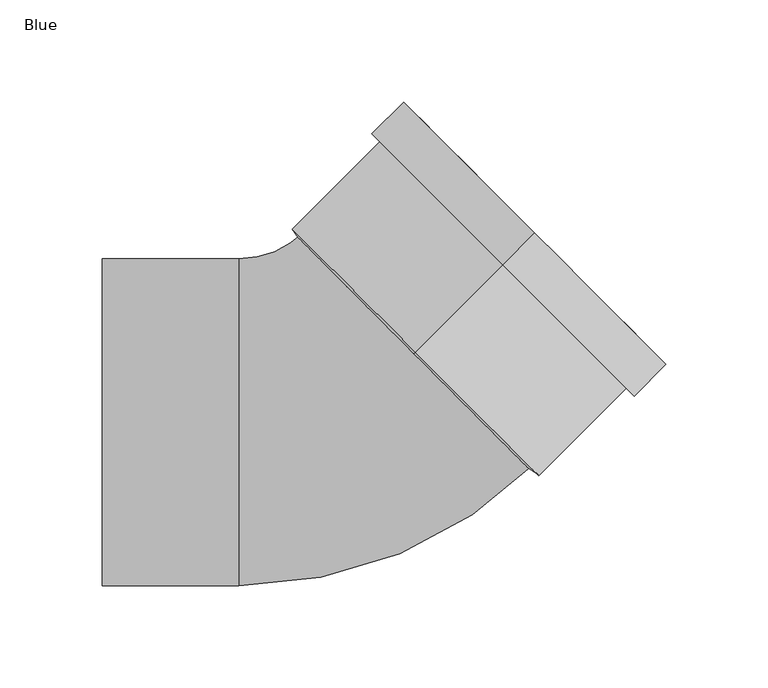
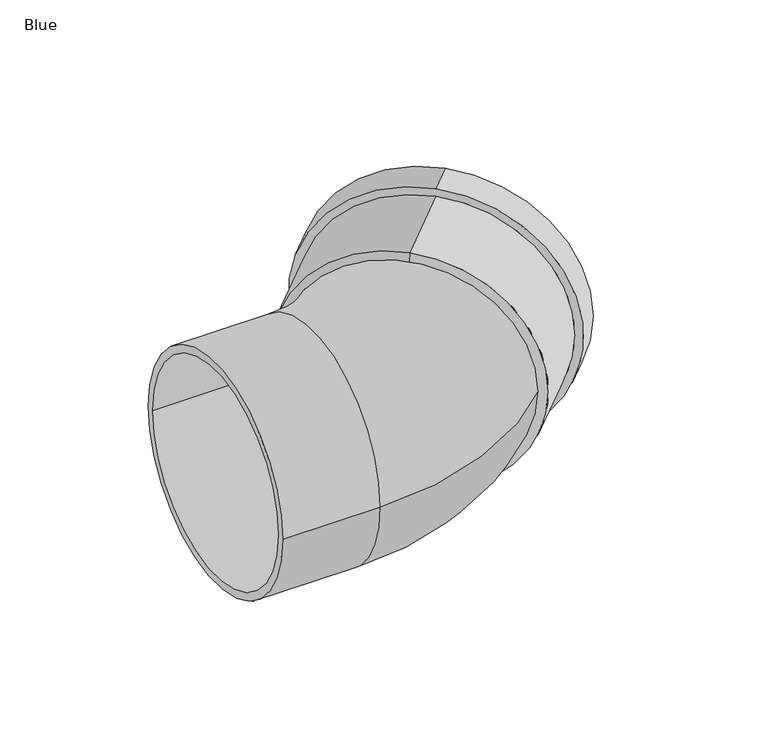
"""IFC4 building model written with IfcOpenShell, lengths in millimetres: pipe fitting geometry, AWADUKT PP SN10 Bend : Blue."""

from ifc_helpers import new_model, si_unit, point, frame, origin, place, context, project, spatial, polyline, circle_curve, ellipse_curve, trimmed, source, transform, mapped, element, save
from ifc_brep_helpers import plane_surface, cylinder_surface, revolved_surface, advanced_brep


def blue_68ca3d6e(model_context):
    return source(origin(), model_context, "Body", "AdvancedBrep", [
        advanced_brep(
        [(77.0746391, 77.0746391, 85.5), (77.0746391, 77.0746391, -85.5), (34.2626826, 34.2626826, -85.5), (34.2626826, 34.2626826, 85.5), (92.6309883, 92.6309883, 91.0), (92.6309883, 92.6309883, -91.0), (77.0746391, 77.0746391, -91.0), (77.0746391, 77.0746391, 91.0), (88.741901, 88.741901, 80.0), (88.741901, 88.741901, -80.0), (92.6309883, 92.6309883, -80.0), (92.6309883, 92.6309883, 80.0), (80.9637264, 80.9637264, 85.5), (80.9637264, 80.9637264, -85.5), (88.741901, 88.741901, -85.5), (88.741901, 88.741901, 85.5), (37.5260143, 37.5260143, 80.0), (37.5260143, 37.5260143, -80.0), (80.9637264, 80.9637264, -80.0), (80.9637264, 80.9637264, 80.0), (36.8402633, 36.8402633, 74.5), (36.8402633, 36.8402633, -74.5), (32.8911806, 32.8911806, 74.5), (32.8911806, 32.8911806, -74.5)],
        [
            (0, 1, circle_curve(frame((77.0746391, 77.0746391, 0.0), z_axis=(-0.7071067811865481, -0.7071067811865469, 0.0), x_axis=(0.0, 0.0, -1.0)), 85.5)),
            (1, 2),
            (2, 3, circle_curve(frame((34.2626826, 34.2626826, 0.0), z_axis=(0.7071067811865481, 0.7071067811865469, 0.0), x_axis=(0.0, 0.0, -1.0)), 85.5)),
            (3, 0),
            (4, 5, circle_curve(frame((92.6309883, 92.6309883, 0.0), z_axis=(-0.7071067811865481, -0.7071067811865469, 0.0), x_axis=(0.0, 0.0, -1.0)), 91.0)),
            (5, 6),
            (6, 7, circle_curve(frame((77.0746391, 77.0746391, 0.0), z_axis=(0.7071067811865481, 0.7071067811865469, 0.0), x_axis=(0.0, 0.0, -1.0)), 91.0)),
            (7, 4),
            (8, 9, circle_curve(frame((88.741901, 88.741901, 0.0), z_axis=(-0.7071067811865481, -0.7071067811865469, 0.0), x_axis=(0.0, 0.0, -1.0)), 80.0)),
            (9, 10),
            (10, 11, circle_curve(frame((92.6309883, 92.6309883, 0.0), z_axis=(0.7071067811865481, 0.7071067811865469, 0.0), x_axis=(0.0, 0.0, -1.0)), 80.0)),
            (11, 8),
            (12, 13, circle_curve(frame((80.9637264, 80.9637264, 0.0), z_axis=(-0.7071067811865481, -0.7071067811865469, 0.0), x_axis=(0.0, 0.0, -1.0)), 85.5)),
            (13, 14),
            (14, 15, circle_curve(frame((88.741901, 88.741901, 0.0), z_axis=(0.7071067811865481, 0.7071067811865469, 0.0), x_axis=(0.0, 0.0, -1.0)), 85.5)),
            (15, 12),
            (16, 17, circle_curve(frame((37.5260143, 37.5260143, 0.0), z_axis=(-0.7071067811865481, -0.7071067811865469, 0.0), x_axis=(0.0, 0.0, -1.0)), 80.0)),
            (17, 18),
            (18, 19, circle_curve(frame((80.9637264, 80.9637264, 0.0), z_axis=(0.7071067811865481, 0.7071067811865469, 0.0), x_axis=(0.0, 0.0, -1.0)), 80.0)),
            (19, 16),
            (20, 21, circle_curve(frame((36.8402633, 36.8402633, 0.0), z_axis=(-0.7071067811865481, -0.7071067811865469, 0.0), x_axis=(0.0, 0.0, -1.0)), 74.5)),
            (21, 17),
            (16, 20),
            (22, 23, circle_curve(frame((32.8911806, 32.8911806, 0.0), z_axis=(-0.7071067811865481, -0.7071067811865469, 0.0), x_axis=(0.0, 0.0, -1.0)), 74.5)),
            (23, 21),
            (20, 22),
            (2, 23),
            (22, 3),
            (1, 0, circle_curve(frame((77.0746391, 77.0746391, 0.0), z_axis=(-0.7071067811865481, -0.7071067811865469, 0.0), x_axis=(0.0, 0.0, 1.0)), 85.5)),
            (3, 2, circle_curve(frame((34.2626826, 34.2626826, 0.0), z_axis=(0.7071067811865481, 0.7071067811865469, 0.0), x_axis=(0.0, 0.0, 1.0)), 85.5)),
            (6, 7, circle_curve(frame((77.0746391, 77.0746391, 0.0), z_axis=(-0.7071067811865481, -0.7071067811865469, 0.0), x_axis=(0.0, 0.0, 1.0)), 91.0)),
            (5, 4, circle_curve(frame((92.6309883, 92.6309883, 0.0), z_axis=(-0.7071067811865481, -0.7071067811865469, 0.0), x_axis=(0.0, 0.0, 1.0)), 91.0)),
            (10, 11, circle_curve(frame((92.6309883, 92.6309883, 0.0), z_axis=(-0.7071067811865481, -0.7071067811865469, 0.0), x_axis=(0.0, 0.0, 1.0)), 80.0)),
            (9, 8, circle_curve(frame((88.741901, 88.741901, 0.0), z_axis=(-0.7071067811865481, -0.7071067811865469, 0.0), x_axis=(0.0, 0.0, 1.0)), 80.0)),
            (14, 15, circle_curve(frame((88.741901, 88.741901, 0.0), z_axis=(-0.7071067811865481, -0.7071067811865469, 0.0), x_axis=(0.0, 0.0, 1.0)), 85.5)),
            (13, 12, circle_curve(frame((80.9637264, 80.9637264, 0.0), z_axis=(-0.7071067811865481, -0.7071067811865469, 0.0), x_axis=(0.0, 0.0, 1.0)), 85.5)),
            (18, 19, circle_curve(frame((80.9637264, 80.9637264, 0.0), z_axis=(-0.7071067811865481, -0.7071067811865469, 0.0), x_axis=(0.0, 0.0, 1.0)), 80.0)),
            (17, 16, circle_curve(frame((37.5260143, 37.5260143, 0.0), z_axis=(-0.7071067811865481, -0.7071067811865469, 0.0), x_axis=(0.0, 0.0, 1.0)), 80.0)),
            (21, 20, circle_curve(frame((36.8402633, 36.8402633, 0.0), z_axis=(-0.7071067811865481, -0.7071067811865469, 0.0), x_axis=(0.0, 0.0, 1.0)), 74.5)),
            (23, 22, circle_curve(frame((32.8911806, 32.8911806, 0.0), z_axis=(-0.7071067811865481, -0.7071067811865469, 0.0), x_axis=(0.0, 0.0, 1.0)), 74.5)),
        ],
        [
            cylinder_surface(frame((36.8402633, 36.8402633, 0.0), z_axis=(0.7071067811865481, 0.7071067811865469, 0.0), x_axis=(0.0, 0.0, -1.0)), 85.5),
            cylinder_surface(frame((36.8402633, 36.8402633, 0.0), z_axis=(0.7071067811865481, 0.7071067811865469, 0.0), x_axis=(0.0, 0.0, -1.0)), 91.0),
            revolved_surface(polyline([(92.63098830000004, 92.63098829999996, -80.0), (88.74190100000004, 88.74190099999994, -80.0)]), (36.8402633, 36.8402633, 0.0), (0.7071067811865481, 0.7071067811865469, 0.0)),
            revolved_surface(polyline([(88.74190100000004, 88.74190099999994, -85.5), (80.96372640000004, 80.96372639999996, -85.5)]), (36.8402633, 36.8402633, 0.0), (0.7071067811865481, 0.7071067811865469, 0.0)),
            revolved_surface(polyline([(80.96372640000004, 80.96372639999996, -80.0), (37.5260143, 37.5260143, -80.0)]), (36.8402633, 36.8402633, 0.0), (0.7071067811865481, 0.7071067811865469, 0.0)),
            revolved_surface(polyline([(37.5260143, 37.5260143, -80.0), (36.8402633, 36.8402633, -74.5)]), (36.8402633, 36.8402633, 0.0), (0.7071067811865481, 0.7071067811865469, 0.0)),
            revolved_surface(polyline([(36.8402633, 36.8402633, -74.5), (32.8911806, 32.8911806, -74.5)]), (36.8402633, 36.8402633, 0.0), (0.7071067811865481, 0.7071067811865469, 0.0)),
            revolved_surface(polyline([(32.8911806, 32.8911806, -74.5), (34.2626826, 34.2626826, -85.5)]), (36.8402633, 36.8402633, 0.0), (0.7071067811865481, 0.7071067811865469, 0.0)),
            cylinder_surface(frame((36.8402633, 36.8402633, 0.0), z_axis=(0.7071067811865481, 0.7071067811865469, 0.0), x_axis=(0.0, 0.0, 1.0)), 85.5),
            plane_surface(frame((77.0746391, 77.0746391, 0.0), z_axis=(-0.7071067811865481, -0.7071067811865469, 0.0), x_axis=(0.0, 0.0, 1.0))),
            cylinder_surface(frame((36.8402633, 36.8402633, 0.0), z_axis=(0.7071067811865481, 0.7071067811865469, 0.0), x_axis=(0.0, 0.0, 1.0)), 91.0),
            plane_surface(frame((92.6309883, 92.6309883, 0.0), z_axis=(0.7071067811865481, 0.7071067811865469, 0.0), x_axis=(0.0, 0.0, 1.0))),
            revolved_surface(polyline([(92.63098830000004, 92.63098829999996, 80.0), (88.74190100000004, 88.74190099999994, 80.0)]), (36.8402633, 36.8402633, 0.0), (0.7071067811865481, 0.7071067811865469, 0.0)),
            plane_surface(frame((88.741901, 88.741901, 0.0), z_axis=(-0.7071067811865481, -0.7071067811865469, 0.0), x_axis=(0.0, 0.0, 1.0))),
            revolved_surface(polyline([(88.74190100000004, 88.74190099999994, 85.5), (80.96372640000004, 80.96372639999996, 85.5)]), (36.8402633, 36.8402633, 0.0), (0.7071067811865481, 0.7071067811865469, 0.0)),
            plane_surface(frame((80.9637264, 80.9637264, 0.0), z_axis=(0.7071067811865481, 0.7071067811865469, 0.0), x_axis=(0.0, 0.0, 1.0))),
            revolved_surface(polyline([(80.96372640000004, 80.96372639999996, 80.0), (37.5260143, 37.5260143, 80.0)]), (36.8402633, 36.8402633, 0.0), (0.7071067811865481, 0.7071067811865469, 0.0)),
            revolved_surface(polyline([(37.5260143, 37.5260143, 80.0), (36.8402633, 36.8402633, 74.5)]), (36.8402633, 36.8402633, 0.0), (0.7071067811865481, 0.7071067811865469, 0.0)),
            revolved_surface(polyline([(36.8402633, 36.8402633, 74.5), (32.8911806, 32.8911806, 74.5)]), (36.8402633, 36.8402633, 0.0), (0.7071067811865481, 0.7071067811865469, 0.0)),
            revolved_surface(polyline([(32.8911806, 32.8911806, 74.5), (34.2626826, 34.2626826, 85.5)]), (36.8402633, 36.8402633, 0.0), (0.7071067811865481, 0.7071067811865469, 0.0)),
        ],
        [
            (0, [[1, 2, 3, 4]]),
            (1, [[5, 6, 7, 8]]),
            (2, [[9, 10, 11, 12]]),
            (3, [[13, 14, 15, 16]]),
            (4, [[17, 18, 19, 20]]),
            (5, [[21, 22, -17, 23]]),
            (6, [[24, 25, -21, 26]]),
            (7, [[-3, 27, -24, 28]]),
            (8, [[29, -4, 30, -2]]),
            (9, [[31, -7], [-29, -1]]),
            (10, [[32, -8, -31, -6]]),
            (11, [[-32, -5], [33, -11]]),
            (12, [[34, -12, -33, -10]]),
            (13, [[35, -15], [-34, -9]]),
            (14, [[36, -16, -35, -14]]),
            (15, [[-36, -13], [37, -19]]),
            (16, [[38, -20, -37, -18]]),
            (17, [[39, -23, -38, -22]]),
            (18, [[40, -26, -39, -25]]),
            (19, [[-30, -28, -40, -27]]),
        ],
    ),
        advanced_brep(
        [(-119.0, -80.0, 0.0), (-119.0, 80.0, 0.0), (-119.0, -74.5, 0.0), (-119.0, 74.5, 0.0), (93.4088058, -19.7282792, 0.0), (-19.7282792, 93.4088058, 0.0), (89.5197185, -15.8391919, 0.0), (-15.8391919, 89.5197185, 0.0), (-52.1, -74.5, 0.0), (-52.1, 74.5, 0.0), (-52.1, -80.0, 0.0), (-52.1, 80.0, 0.0)],
        [
            (0, 1, circle_curve(frame((-119.0, 0.0, 0.0), z_axis=(-1.0, 0.0, 0.0), x_axis=(0.0, 1.0, 0.0)), 80.0)),
            (1, 0, circle_curve(frame((-119.0, 0.0, 0.0), z_axis=(-1.0, 0.0, 0.0), x_axis=(0.0, 1.0, 0.0)), 80.0)),
            (2, 3, circle_curve(frame((-119.0, 0.0, 0.0), z_axis=(1.0, 0.0, 0.0), x_axis=(0.0, 1.0, 0.0)), 74.5)),
            (3, 2, circle_curve(frame((-119.0, 0.0, 0.0), z_axis=(1.0, 0.0, 0.0), x_axis=(0.0, 1.0, 0.0)), 74.5)),
            (4, 5, circle_curve(frame((36.8402633, 36.8402633, 0.0), z_axis=(0.7071067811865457, 0.7071067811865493, 0.0), x_axis=(-0.7071067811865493, 0.7071067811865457, 0.0)), 80.0)),
            (5, 4, circle_curve(frame((36.8402633, 36.8402633, 0.0), z_axis=(0.7071067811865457, 0.7071067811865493, 0.0), x_axis=(-0.7071067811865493, 0.7071067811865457, 0.0)), 80.0)),
            (6, 7, circle_curve(frame((36.8402633, 36.8402633, 0.0), z_axis=(-0.7071067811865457, -0.7071067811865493, 0.0), x_axis=(-0.7071067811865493, 0.7071067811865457, 0.0)), 74.5)),
            (7, 6, circle_curve(frame((36.8402633, 36.8402633, 0.0), z_axis=(-0.7071067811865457, -0.7071067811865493, 0.0), x_axis=(-0.7071067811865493, 0.7071067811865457, 0.0)), 74.5)),
            (2, 8),
            (8, 9, circle_curve(frame((-52.1, 0.0, 0.0), z_axis=(1.0, 0.0, 0.0), x_axis=(0.0, 1.0, 0.0)), 74.5)),
            (9, 3),
            (9, 8, circle_curve(frame((-52.1, 0.0, 0.0), z_axis=(1.0, 0.0, 0.0), x_axis=(0.0, 1.0, 0.0)), 74.5)),
            (0, 10),
            (10, 11, circle_curve(frame((-52.1, 0.0, 0.0), z_axis=(-1.0, 0.0, 0.0), x_axis=(0.0, 1.0, 0.0)), 80.0)),
            (11, 1),
            (11, 10, circle_curve(frame((-52.1, 0.0, 0.0), z_axis=(-1.0, 0.0, 0.0), x_axis=(0.0, 1.0, 0.0)), 80.0)),
            (7, 9, circle_curve(frame((-52.1, 125.7805266, 0.0), z_axis=(0.0, 0.0, -1.0), x_axis=(0.0, -1.0, 0.0)), 51.2805266)),
            (8, 6, circle_curve(frame((-52.1, 125.7805266, 0.0), z_axis=(0.0, 0.0, 1.0), x_axis=(0.0, -1.0, 0.0)), 200.2805266)),
            (5, 11, circle_curve(frame((-52.1, 125.7805266, 0.0), z_axis=(0.0, 0.0, -1.0), x_axis=(0.0, -1.0, 0.0)), 45.7805266)),
            (10, 4, circle_curve(frame((-52.1, 125.7805266, 0.0), z_axis=(0.0, 0.0, 1.0), x_axis=(0.0, -1.0, 0.0)), 205.7805266)),
        ],
        [
            plane_surface(frame((-119.0, 0.0, 0.0), z_axis=(-1.0, 0.0, 0.0), x_axis=(0.0, 0.0, 1.0))),
            plane_surface(frame((36.8402633, 36.8402633, 0.0), z_axis=(0.7071067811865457, 0.7071067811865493, 0.0), x_axis=(0.0, 0.0, 1.0))),
            revolved_surface(polyline([(-52.099999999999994, 74.5, 0.0), (-119.0, 74.5, 0.0)]), (-119.0, 0.0, 0.0), (1.0, 0.0, 0.0)),
            cylinder_surface(frame((-119.0, 0.0, 0.0), z_axis=(-1.0, 0.0, 0.0), x_axis=(0.0, 1.0, 0.0)), 80.0),
            revolved_surface(trimmed(ellipse_curve(frame((-52.1, 0.0, 0.0), z_axis=(1.0, 0.0, 0.0), x_axis=(0.0, 1.0, 0.0)), 74.5, 74.5), [point((-52.1, -74.5, 0.0))], [point((-52.1, 74.5, 0.0))], True, "CARTESIAN"), (-52.1, 125.7805266, 0.0), (0.0, 0.0, 1.0)),
            revolved_surface(trimmed(ellipse_curve(frame((-52.1, 0.0, 0.0), z_axis=(1.0, 0.0, 0.0), x_axis=(0.0, 1.0, 0.0)), 74.5, 74.5), [point((-52.1, 74.5, 0.0))], [point((-52.1, -74.5, 0.0))], True, "CARTESIAN"), (-52.1, 125.7805266, 0.0), (0.0, 0.0, 1.0)),
            revolved_surface(trimmed(ellipse_curve(frame((-52.1, 0.0, 0.0), z_axis=(-1.0, 0.0, 0.0), x_axis=(0.0, 1.0, 0.0)), 80.0, 80.0), [point((-52.1, -80.0, 0.0))], [point((-52.1, 80.0, 0.0))], True, "CARTESIAN"), (-52.1, 125.7805266, 0.0), (0.0, 0.0, 1.0)),
            revolved_surface(trimmed(ellipse_curve(frame((-52.1, 0.0, 0.0), z_axis=(-1.0, 0.0, 0.0), x_axis=(0.0, 1.0, 0.0)), 80.0, 80.0), [point((-52.1, 80.0, 0.0))], [point((-52.1, -80.0, 0.0))], True, "CARTESIAN"), (-52.1, 125.7805266, 0.0), (0.0, 0.0, 1.0)),
        ],
        [
            (0, [[1, 2], [3, 4]]),
            (1, [[5, 6], [7, 8]]),
            (2, [[-3, 9, 10, 11]]),
            (2, [[-4, -11, 12, -9]]),
            (3, [[-1, 13, 14, 15]]),
            (3, [[-2, -15, 16, -13]]),
            (4, [[17, -10, 18, -8]]),
            (5, [[-18, -12, -17, -7]]),
            (6, [[19, -14, 20, -6]]),
            (7, [[-20, -16, -19, -5]]),
        ],
    ),
    ])


if __name__ == "__main__":
    model = new_model("IFC4")
    model_context = context("Model", 3, world=origin())
    ifc_project = project(units=[si_unit("LENGTHUNIT", "METRE", prefix="MILLI")], contexts=[model_context])
    site = spatial("IfcSite", under=ifc_project)
    building = spatial("IfcBuilding", under=site)
    placement = place(None, origin())
    blue_shape = blue_68ca3d6e(model_context)
    element("IfcPipeFitting", 1, ObjectType="AWADUKT PP SN10 Bend : Blue", at=placement, inside=building, context=model_context, shape_type="MappedRepresentation", body=[
        mapped(blue_shape, transform((0.0, 0.0, 0.0), x_axis=(1.0, 0.0, 0.0), y_axis=(0.0, 1.0, 0.0), z_axis=(0.0, 0.0, 1.0))),
    ])
    save(model, "model.ifc")
